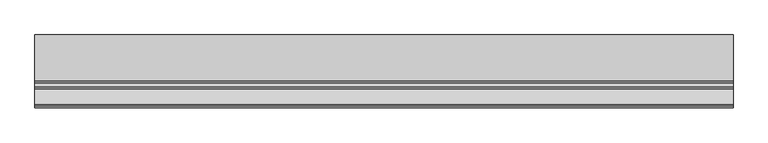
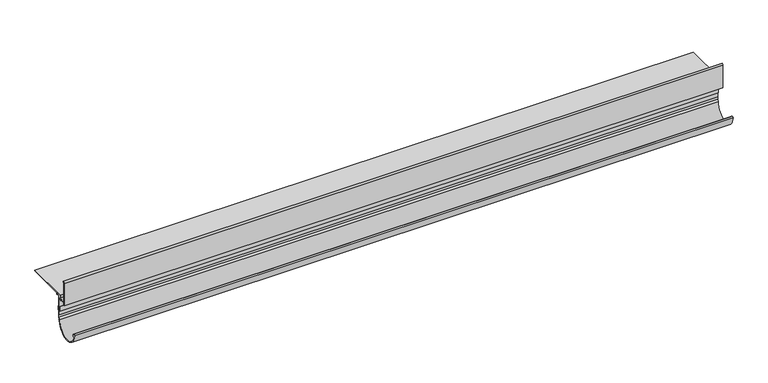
"""IFC4 building model written with IfcOpenShell, lengths in millimetres: proxy geometry, W35 Profil okapowy prosty : Renoplast."""

from ifc_helpers import new_model, si_unit, point, frame, frame_2d, origin, place, context, project, spatial, polyline, circle_curve, trimmed, segment, composite_curve, outline, extrude, source, transform, mapped, element, save
from ifc_brep_helpers import plane_surface, cylinder_surface, revolved_surface, advanced_brep


def generic_models_87c91727(model_context):
    return source(origin(), model_context, "Body", "SolidModel", [
        extrude(outline(composite_curve([segment(polyline([(16.2735812, -80.1470817), (16.2735812, -95.1483511), (13.2279836, -98.1939486), (13.2279836, -99.2732221), (15.2042537, -98.7436822), (14.8456235, -100.0821082), (13.2966871, -100.4971445)]), True, "CONTINUOUS"), segment(trimmed(circle_curve(frame_2d((-11.7, -100.0901637)), 25.0), [point((13.2966871, -100.4971445))], [point((-36.69821, -100.3893256))], False, "CARTESIAN"), True, "CONTINUOUS"), segment(trimmed(circle_curve(frame_2d((-34.4544934, -102.0693536)), 2.8029909), [point((-36.69821, -100.3893256))], [point((-33.8823565, -99.3253752))], False, "CARTESIAN"), True, "CONTINUOUS"), segment(trimmed(circle_curve(frame_2d((-34.4544934, -102.0693536)), 2.8029909), [point((-33.8823565, -99.3253752))], [point((-35.0266303, -104.8133319))], False, "CARTESIAN"), True, "CONTINUOUS"), segment(trimmed(circle_curve(frame_2d((-11.7, -100.0901637)), 23.8), [point((-35.0266303, -104.8133319))], [point((11.9837886, -97.7410874))], True, "CARTESIAN"), True, "CONTINUOUS"), segment(polyline([(11.9837886, -97.7410874), (15.0771553, -94.6477207), (15.0771553, -78.1458102), (13.5916529, -78.1458102), (13.5916529, -80.1470817), (12.5916529, -80.1470817), (12.5916529, -71.8647019), (13.5916529, -71.8647019), (13.5916529, -73.8652393), (15.0771553, -73.8652393), (15.0771553, -56.0), (16.2735812, -56.0), (16.2735812, -71.8647019), (17.3, -71.8647019), (17.3, -80.1470817), (16.2735812, -80.1470817)]), True, "CONTINUOUS")], self_intersect=False)), frame((0.0, 0.0, 0.0), z_axis=(1.0, 0.0, 0.0), x_axis=(0.0, 1.0, 0.0)), (0.0, 0.0, 1.0), 1265.4547014),
        advanced_brep(
        [(0.0, -0.0010677, -12.3), (0.0, -0.0010677, -14.1358001), (0.0, -1.0010677, -15.1358001), (0.0, -1.0010677, -53.6212515), (0.0, 13.1366439, -53.6212515), (0.0, 13.1366439, -48.8260527), (0.0, 11.3457599, -48.8260527), (0.0, 9.9454403, -50.1551438), (0.0, 8.4435317, -50.1551438), (0.0, 11.0612599, -47.3), (0.0, 95.0989323, -47.3), (0.0, 95.0989323, -48.8260527), (0.0, 21.5989323, -48.8260527), (0.0, 21.5989323, -51.8230238), (0.0, 20.0989323, -51.8230238), (0.0, 20.0989323, -48.8260527), (0.0, 15.0989323, -48.8260527), (0.0, 15.0989323, -88.5), (0.0, 13.5989323, -88.5), (0.0, 13.5989323, -55.1212515), (0.0, 10.049712, -55.1212515), (0.0, 8.5231229, -56.6478406), (0.0, 8.5231229, -55.1212515), (0.0, -1.0010677, -55.1212515), (0.0, -1.0010677, -59.3464967), (0.0, -2.5010677, -60.5974817), (0.0, -2.5010677, -15.1358001), (1265.4547014, -0.0010677, -12.3), (1265.4547014, -2.5010677, -15.1358001), (1265.4547014, -2.5010677, -60.5974817), (1265.4547014, -1.0010677, -59.3464967), (1265.4547014, -1.0010677, -55.1212515), (1265.4547014, 8.5231229, -55.1212515), (1265.4547014, 8.5231229, -56.6478406), (1265.4547014, 10.049712, -55.1212515), (1265.4547014, 13.5989323, -55.1212515), (1265.4547014, 13.5989323, -88.5), (1265.4547014, 15.0989323, -88.5), (1265.4547014, 15.0989323, -48.8260527), (1265.4547014, 20.0989323, -48.8260527), (1265.4547014, 20.0989323, -51.8230238), (1265.4547014, 21.5989323, -51.8230238), (1265.4547014, 21.5989323, -48.8260527), (1265.4547014, 95.0989323, -48.8260527), (1265.4547014, 95.0989323, -47.3), (1265.4547014, 11.0612599, -47.3), (1265.4547014, 8.4435317, -50.1427162), (1265.4547014, 9.9454403, -50.1551438), (1265.4547014, 11.3457599, -48.8260527), (1265.4547014, 13.1366439, -48.8260527), (1265.4547014, 13.1366439, -53.6212515), (1265.4547014, -1.0010677, -53.6212515), (1265.4547014, -1.0010677, -15.1358001), (1265.4547014, -0.0010677, -14.1358001)],
        [
            (0, 1),
            (1, 2, circle_curve(frame((0.0, -0.0010677, -15.1358001), z_axis=(1.0, 0.0, 0.0), x_axis=(0.0, -1.0, 0.0)), 1.0)),
            (2, 3),
            (3, 4),
            (4, 5),
            (5, 6),
            (6, 7, circle_curve(frame((0.0, 11.3457599, -50.2282809), z_axis=(1.0, 0.0, 0.0), x_axis=(0.0, 1.0, 0.0)), 1.4022282)),
            (7, 8),
            (8, 9, circle_curve(frame((0.0, 11.0612599, -49.9266316), z_axis=(-1.0, 0.0, 0.0), x_axis=(0.0, 1.0, 0.0)), 2.6266316)),
            (9, 10),
            (10, 11),
            (11, 12),
            (12, 13),
            (13, 14),
            (14, 15),
            (15, 16),
            (16, 17),
            (17, 18),
            (18, 19),
            (19, 20),
            (20, 21),
            (21, 22),
            (22, 23),
            (23, 24),
            (24, 25),
            (25, 26),
            (26, 0, circle_curve(frame((0.0, 0.4087938, -15.1812097), z_axis=(-1.0, 0.0, 0.0), x_axis=(0.0, -1.0, 0.0)), 2.9102158)),
            (27, 28, circle_curve(frame((1265.4547014, 0.4087938, -15.1812097), z_axis=(1.0, 0.0, 0.0), x_axis=(0.0, -1.0, 0.0)), 2.9102158)),
            (28, 29),
            (29, 30),
            (30, 31),
            (31, 32),
            (32, 33),
            (33, 34),
            (34, 35),
            (35, 36),
            (36, 37),
            (37, 38),
            (38, 39),
            (39, 40),
            (40, 41),
            (41, 42),
            (42, 43),
            (43, 44),
            (44, 45),
            (45, 46, circle_curve(frame((1265.4547014, 11.0612599, -49.9266316), z_axis=(1.0, 0.0, 0.0), x_axis=(0.0, 1.0, 0.0)), 2.6266316)),
            (46, 47),
            (47, 48, circle_curve(frame((1265.4547014, 11.3457599, -50.2282809), z_axis=(-1.0, 0.0, 0.0), x_axis=(0.0, 1.0, 0.0)), 1.4022282)),
            (48, 49),
            (49, 50),
            (50, 51),
            (51, 52),
            (52, 53, circle_curve(frame((1265.4547014, -0.0010677, -15.1358001), z_axis=(-1.0, 0.0, 0.0), x_axis=(0.0, -1.0, 0.0)), 1.0)),
            (53, 27),
            (0, 27),
            (53, 1),
            (52, 2),
            (51, 3),
            (50, 4),
            (49, 5),
            (48, 6),
            (47, 7),
            (46, 8),
            (45, 9),
            (44, 10),
            (43, 11),
            (42, 12),
            (41, 13),
            (40, 14),
            (39, 15),
            (38, 16),
            (37, 17),
            (36, 18),
            (35, 19),
            (34, 20),
            (33, 21),
            (32, 22),
            (31, 23),
            (30, 24),
            (29, 25),
            (28, 26),
        ],
        [
            plane_surface(frame((0.0, 0.0, 0.0), z_axis=(-1.0, 0.0, 0.0), x_axis=(0.0, 0.0, 1.0))),
            plane_surface(frame((1265.4547014, 0.0, 0.0), z_axis=(1.0, 0.0, 0.0), x_axis=(0.0, 0.0, 1.0))),
            plane_surface(frame((0.0, -0.0010677, -12.3), z_axis=(0.0, 1.0, 0.0), x_axis=(1.0, 0.0, 0.0))),
            revolved_surface(polyline([(1265.4547014, -1.0010677, -15.1358001), (0.0, -1.0010677, -15.1358001)]), (0.0, -0.0010677, -15.1358001), (1.0, 0.0, 0.0)),
            plane_surface(frame((0.0, -1.0010677, -15.1358001), z_axis=(0.0, 1.0, 0.0), x_axis=(1.0, 0.0, 0.0))),
            plane_surface(frame((0.0, 7.7310535, -53.6212515), z_axis=(0.0, 0.0, 1.0), x_axis=(1.0, 0.0, 0.0))),
            plane_surface(frame((0.0, 13.1366439, -53.6212515), z_axis=(0.0, -1.0, 0.0), x_axis=(1.0, 0.0, 0.0))),
            plane_surface(frame((0.0, 13.1366439, -48.8260527), z_axis=(0.0, 0.0, -1.0), x_axis=(1.0, 0.0, 0.0))),
            revolved_surface(polyline([(1265.4547014, 12.747988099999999, -50.2282809), (0.0, 12.747988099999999, -50.2282809)]), (0.0, 11.3457599, -50.2282809), (1.0, 0.0, 0.0)),
            plane_surface(frame((0.0, 9.9454403, -50.1551438), z_axis=(0.0, 0.0, -1.0), x_axis=(1.0, 0.0, 0.0))),
            cylinder_surface(frame((0.0, 11.0612599, -49.9266316), z_axis=(-1.0, 0.0, 0.0), x_axis=(0.0, 1.0, 0.0)), 2.6266316),
            plane_surface(frame((0.0, 11.0612599, -47.3), z_axis=(0.0, 0.0, 1.0), x_axis=(1.0, 0.0, 0.0))),
            plane_surface(frame((0.0, 95.0989323, -47.3), z_axis=(0.0, 1.0, 0.0), x_axis=(1.0, 0.0, 0.0))),
            plane_surface(frame((0.0, 95.0989323, -48.8260527), z_axis=(0.0, 0.0, -1.0), x_axis=(1.0, 0.0, 0.0))),
            plane_surface(frame((0.0, 21.5989323, -48.8260527), z_axis=(0.0, 1.0, 0.0), x_axis=(1.0, 0.0, 0.0))),
            plane_surface(frame((0.0, 21.5989323, -51.8230238), z_axis=(0.0, 0.0, -1.0), x_axis=(1.0, 0.0, 0.0))),
            plane_surface(frame((0.0, 20.0989323, -51.8230238), z_axis=(0.0, -1.0, 0.0), x_axis=(1.0, 0.0, 0.0))),
            plane_surface(frame((0.0, 20.0989323, -48.8260527), z_axis=(0.0, 0.0, -1.0), x_axis=(1.0, 0.0, 0.0))),
            plane_surface(frame((0.0, 15.0989323, -48.8260527), z_axis=(0.0, 1.0, 0.0), x_axis=(1.0, 0.0, 0.0))),
            plane_surface(frame((0.0, 15.0989323, -88.5), z_axis=(0.0, 0.0, -1.0), x_axis=(1.0, 0.0, 0.0))),
            plane_surface(frame((0.0, 13.5989323, -88.5), z_axis=(0.0, -1.0, 0.0), x_axis=(1.0, 0.0, 0.0))),
            plane_surface(frame((0.0, 13.5989323, -55.1212515), z_axis=(0.0, 0.0, -1.0), x_axis=(1.0, 0.0, 0.0))),
            plane_surface(frame((0.0, 10.049712, -55.1212515), z_axis=(0.0, 0.7071067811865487, -0.7071067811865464), x_axis=(1.0, 0.0, 0.0))),
            plane_surface(frame((0.0, 8.5231229, -56.6478406), z_axis=(0.0, -1.0, 0.0), x_axis=(1.0, 0.0, 0.0))),
            plane_surface(frame((0.0, 0.0, -55.1212515), z_axis=(0.0, 0.0, -1.0), x_axis=(1.0, 0.0, 0.0))),
            plane_surface(frame((0.0, -1.0010677, -55.1212515), z_axis=(0.0, 1.0, 0.0), x_axis=(1.0, 0.0, 0.0))),
            plane_surface(frame((0.0, -1.0010677, -59.3464967), z_axis=(0.0, 0.6404819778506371, -0.767973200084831), x_axis=(1.0, 0.0, 0.0))),
            plane_surface(frame((0.0, -2.5010677, -60.5974817), z_axis=(0.0, -1.0, 0.0), x_axis=(1.0, 0.0, 0.0))),
            cylinder_surface(frame((0.0, 0.4087938, -15.1812097), z_axis=(-1.0, 0.0, 0.0), x_axis=(0.0, -1.0, 0.0)), 2.9102158),
        ],
        [
            (0, [[1, 2, 3, 4, 5, 6, 7, 8, 9, 10, 11, 12, 13, 14, 15, 16, 17, 18, 19, 20, 21, 22, 23, 24, 25, 26, 27]]),
            (1, [[28, 29, 30, 31, 32, 33, 34, 35, 36, 37, 38, 39, 40, 41, 42, 43, 44, 45, 46, 47, 48, 49, 50, 51, 52, 53, 54]]),
            (2, [[-1, 55, -54, 56]]),
            (3, [[-2, -56, -53, 57]]),
            (4, [[-3, -57, -52, 58]]),
            (5, [[-58, -51, 59, -4]]),
            (6, [[-5, -59, -50, 60]]),
            (7, [[-6, -60, -49, 61]]),
            (8, [[-7, -61, -48, 62]]),
            (9, [[-8, -62, -47, 63]]),
            (10, [[-9, -63, -46, 64]]),
            (11, [[-10, -64, -45, 65]]),
            (12, [[-11, -65, -44, 66]]),
            (13, [[-12, -66, -43, 67]]),
            (14, [[-13, -67, -42, 68]]),
            (15, [[-14, -68, -41, 69]]),
            (16, [[-15, -69, -40, 70]]),
            (17, [[-16, -70, -39, 71]]),
            (18, [[-17, -71, -38, 72]]),
            (19, [[-18, -72, -37, 73]]),
            (20, [[-19, -73, -36, 74]]),
            (21, [[-20, -74, -35, 75]]),
            (22, [[-21, -75, -34, 76]]),
            (23, [[-22, -76, -33, 77]]),
            (24, [[-77, -32, 78, -23]]),
            (25, [[-24, -78, -31, 79]]),
            (26, [[-25, -79, -30, 80]]),
            (27, [[-26, -80, -29, 81]]),
            (28, [[-27, -81, -28, -55]]),
        ],
    ),
    ])


if __name__ == "__main__":
    model = new_model("IFC4")
    model_context = context("Model", 3, world=origin())
    ifc_project = project(units=[si_unit("LENGTHUNIT", "METRE", prefix="MILLI")], contexts=[model_context])
    site = spatial("IfcSite", under=ifc_project)
    building = spatial("IfcBuilding", under=site)
    placement = place(None, origin())
    generic_models_shape = generic_models_87c91727(model_context)
    element("IfcBuildingElementProxy", 1, Name="W35 Profil okapowy prosty : Renoplast", ObjectType="W35 Profil okapowy prosty : Renoplast", at=placement, inside=building, context=model_context, shape_type="MappedRepresentation", body=[
        mapped(generic_models_shape, transform((0.0, 0.0, 0.0), x_axis=(1.0, 0.0, 0.0), y_axis=(0.0, 1.0, 0.0), z_axis=(0.0, 0.0, 1.0))),
    ])
    save(model, "model.ifc")
